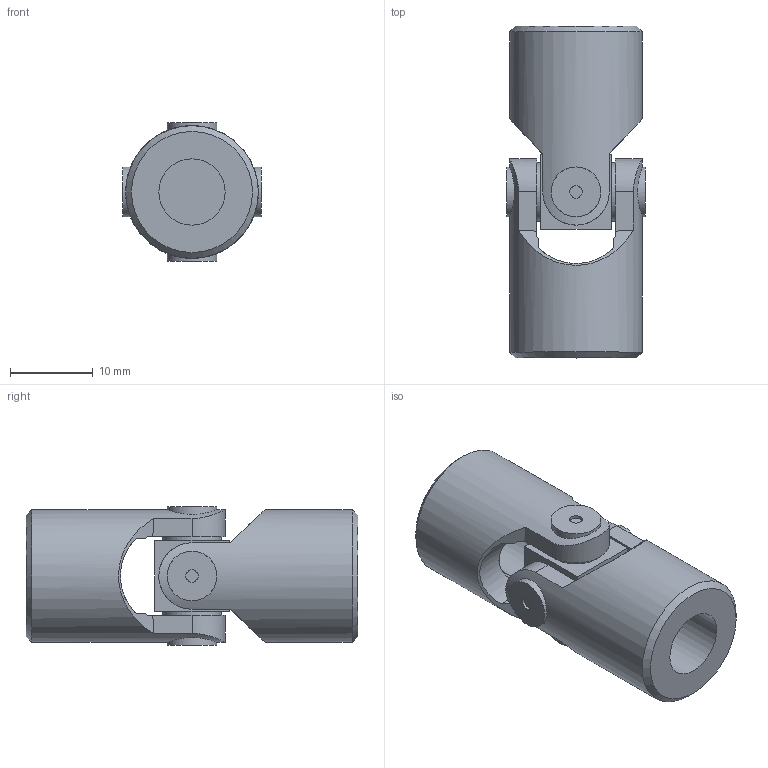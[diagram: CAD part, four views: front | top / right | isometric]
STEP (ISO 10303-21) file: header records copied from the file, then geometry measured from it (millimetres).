
FILE_DESCRIPTION(/* description */ ('EXTENSIBLE TRANSIMISSIONS Series G DIN 808 -2-'),/* implementation_level */ '2;1');
FILE_NAME(/* name */ '\\SRV2016\societa\Stefano\Disegni 3D\Dis. Clienti\0000Catalogo 3D\01Singoli G-GB\SG0S0800.stp',/* time_stamp */ '2021-11-08T13:32:45+01:00',/* author */ ('acquisti'),/* organization */ ('MARIOFERRI'),/* preprocessor_version */ 'ST-DEVELOPER v15.6',/* originating_system */ 'Autodesk Inventor 2015',/* authorisation */ '');
FILE_SCHEMA (('AUTOMOTIVE_DESIGN { 1 0 10303 214 3 1 1 }'));
Length unit declared in the file: millimetre
Products named in the file (3): 01-02G SFE; 02G MOS; Assieme1
Assembly tree (3 placements, depth 2):
  Assieme1
    01-02G SFE
    02G MOS  x2
Bounding box: 16.7 x 40 x 16.7 mm (x, y, z)
Volume: 5478 mm3; surface area: 3823.5 mm2
Topology: 3 solids, 3 shells, 72 faces, 176 edges, 120 vertices
Faces by surface type: plane 36, cylinder 22, cone 12, torus 2
Full cylindrical faces by diameter (mm): 1.5 x4, 6 x4, 7 x4, 8 x2, 8.5 x2, 16 x2
Entity records: 1363 total; most frequent: CARTESIAN_POINT 422, DIRECTION 184, ORIENTED_EDGE 160, EDGE_CURVE 80, AXIS2_PLACEMENT_3D 80, EDGE_LOOP 66, VERTEX_POINT 62, FACE_OUTER_BOUND 43
